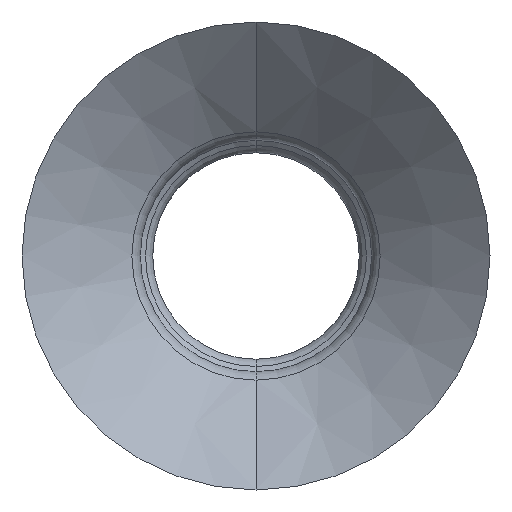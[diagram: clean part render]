
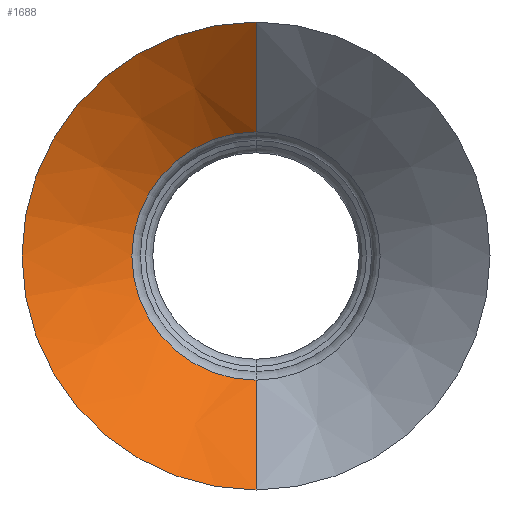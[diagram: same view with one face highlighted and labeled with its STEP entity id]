
A CAD part, front view. The second image highlights one B-rep face of the part: STEP entity #1688.
In plain terms, the highlighted conical face has half-angle 50.058 degrees and reference radius 3.13 mm.
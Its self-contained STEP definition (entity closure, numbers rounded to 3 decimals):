
#78 = AXIS2_PLACEMENT_3D ( 'NONE', #1042, #259, #1362 ) ;
#86 = CARTESIAN_POINT ( 'NONE',  ( 0., -25.481, 0. ) ) ;
#212 = AXIS2_PLACEMENT_3D ( 'NONE', #412, #735, #743 ) ;
#252 = FACE_OUTER_BOUND ( 'NONE', #1569, .T. ) ;
#255 = DIRECTION ( 'NONE',  ( 0., 1., 0. ) ) ;
#259 = DIRECTION ( 'NONE',  ( 0., 1., 0. ) ) ;
#355 = LINE ( 'NONE', #1155, #1790 ) ;
#410 = CONICAL_SURFACE ( 'NONE', #212, 3.13, 0.874 ) ;
#412 = CARTESIAN_POINT ( 'NONE',  ( 0., -25.481, 0. ) ) ;
#428 = VERTEX_POINT ( 'NONE', #1664 ) ;
#449 = LINE ( 'NONE', #1270, #1818 ) ;
#455 = EDGE_CURVE ( 'NONE', #830, #519, #682, .T. ) ;
#519 = VERTEX_POINT ( 'NONE', #555 ) ;
#535 = AXIS2_PLACEMENT_3D ( 'NONE', #86, #255, #742 ) ;
#555 = CARTESIAN_POINT ( 'NONE',  ( 0., -25.481, 3.13 ) ) ;
#676 = ORIENTED_EDGE ( 'NONE', *, *, #455, .T. ) ;
#682 = CIRCLE ( 'NONE', #535, 3.13 ) ;
#735 = DIRECTION ( 'NONE',  ( 0., -1., 0. ) ) ;
#742 = DIRECTION ( 'NONE',  ( 0., 0., 1. ) ) ;
#743 = DIRECTION ( 'NONE',  ( 0., 0., -1. ) ) ;
#791 = EDGE_CURVE ( 'NONE', #830, #428, #449, .T. ) ;
#830 = VERTEX_POINT ( 'NONE', #2012 ) ;
#974 = ORIENTED_EDGE ( 'NONE', *, *, #791, .F. ) ;
#1036 = EDGE_CURVE ( 'NONE', #519, #1435, #355, .T. ) ;
#1042 = CARTESIAN_POINT ( 'NONE',  ( 0., -27.8, 0. ) ) ;
#1054 = DIRECTION ( 'NONE',  ( 0., -0.642, 0.767 ) ) ;
#1155 = CARTESIAN_POINT ( 'NONE',  ( 0., -25.481, 3.13 ) ) ;
#1270 = CARTESIAN_POINT ( 'NONE',  ( 0., -25.481, -3.13 ) ) ;
#1362 = DIRECTION ( 'NONE',  ( 0., 0., 1. ) ) ;
#1435 = VERTEX_POINT ( 'NONE', #1628 ) ;
#1569 = EDGE_LOOP ( 'NONE', ( #676, #1785, #1895, #974 ) ) ;
#1628 = CARTESIAN_POINT ( 'NONE',  ( 0., -27.8, 5.9 ) ) ;
#1664 = CARTESIAN_POINT ( 'NONE',  ( 0., -27.8, -5.9 ) ) ;
#1688 = ADVANCED_FACE ( 'NONE', ( #252 ), #410, .F. ) ;
#1750 = DIRECTION ( 'NONE',  ( 0., -0.642, -0.767 ) ) ;
#1764 = EDGE_CURVE ( 'NONE', #428, #1435, #1883, .T. ) ;
#1785 = ORIENTED_EDGE ( 'NONE', *, *, #1036, .T. ) ;
#1790 = VECTOR ( 'NONE', #1054, 1000. ) ;
#1818 = VECTOR ( 'NONE', #1750, 1000. ) ;
#1883 = CIRCLE ( 'NONE', #78, 5.9 ) ;
#1895 = ORIENTED_EDGE ( 'NONE', *, *, #1764, .F. ) ;
#2012 = CARTESIAN_POINT ( 'NONE',  ( 0., -25.481, -3.13 ) ) ;
